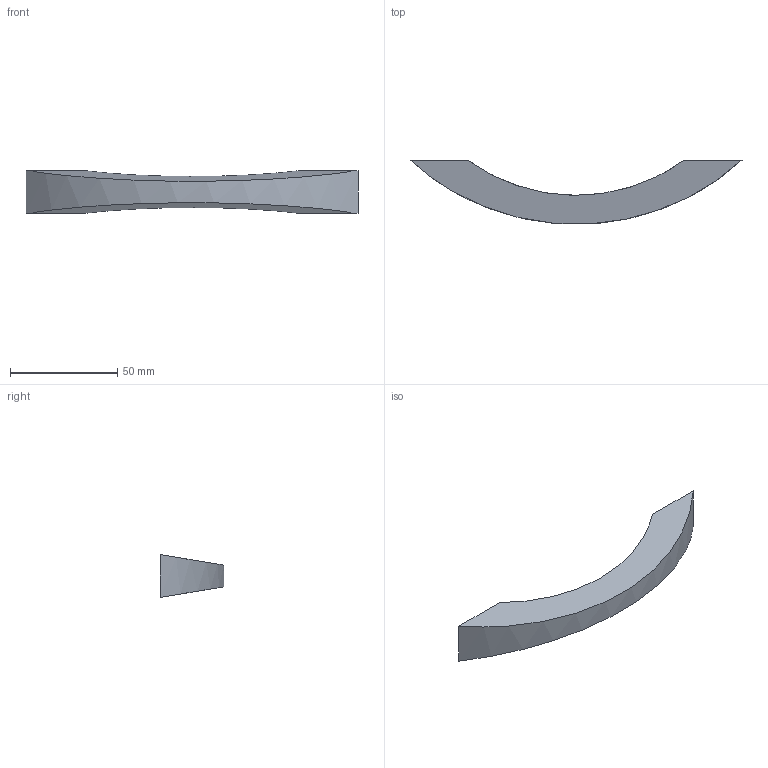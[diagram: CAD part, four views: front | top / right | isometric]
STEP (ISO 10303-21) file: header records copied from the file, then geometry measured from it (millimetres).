
FILE_DESCRIPTION( ( '' ), '1' );
FILE_NAME( 'C:/Documents and Settings/Sachin/Desktop/Sheet 10_1/stp/9071718.stp', '2013-10-22T11:35:07', ( '' ), ( '' ), ' ', ' ', ' ' );
FILE_SCHEMA( ( 'CONFIG_CONTROL_DESIGN' ) );
Length unit declared in the file: millimetre
Products named in the file (1): 1
Bounding box: 155 x 29.81 x 20 mm (x, y, z)
Volume: 30581.1 mm3; surface area: 9446 mm2
Topology: 1 solids, 1 shells, 12 faces, 24 edges, 16 vertices
Faces by surface type: cylinder 6, plane 6
Entity records: 364 total; most frequent: DIRECTION 62, CARTESIAN_POINT 53, ORIENTED_EDGE 48, AXIS2_PLACEMENT_3D 25, EDGE_CURVE 24, VERTEX_POINT 16, EDGE_LOOP 14, ADVANCED_FACE 12
